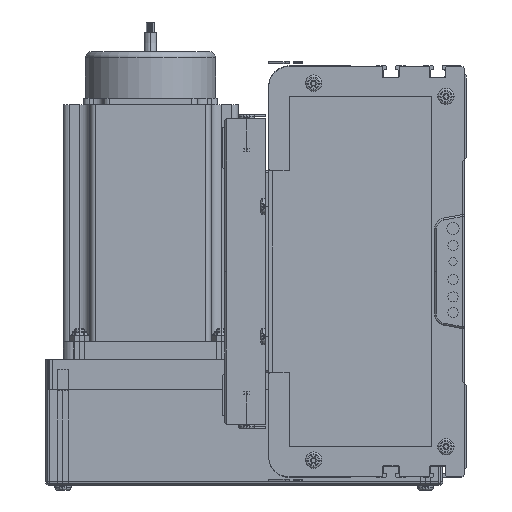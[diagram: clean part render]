
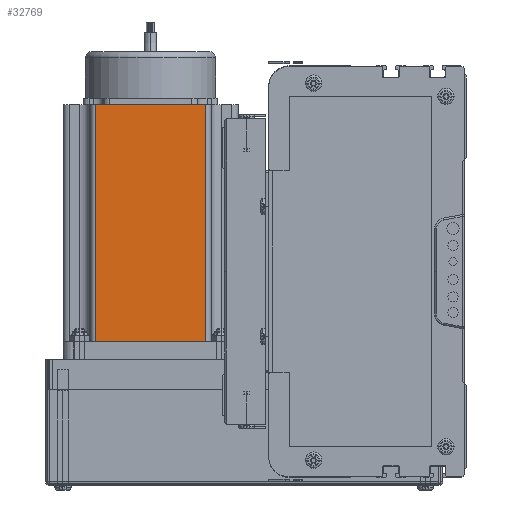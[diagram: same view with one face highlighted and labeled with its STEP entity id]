
A CAD part, left-side view. The second image highlights one B-rep face of the part: STEP entity #32769.
In plain terms, the highlighted planar face has unit normal (-1, 0, 0) as drawn and (0, -1, 0) by its records, which use the part's own axes.
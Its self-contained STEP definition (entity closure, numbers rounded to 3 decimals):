
#19446 = EDGE_CURVE ( 'NONE', #32675, #19448, #83807, .T. ) ;
#19448 = VERTEX_POINT ( 'NONE', #83808 ) ;
#19499 = VERTEX_POINT ( 'NONE', #83903 ) ;
#28596 = DIRECTION ( 'NONE',  ( 1., 0., 0. ) ) ;
#28597 = VECTOR ( 'NONE', #28596, 1000. ) ;
#28598 = CARTESIAN_POINT ( 'NONE',  ( 0., 0., 116.5 ) ) ;
#28599 = LINE ( 'NONE', #28598, #28597 ) ;
#32549 = ORIENTED_EDGE ( 'NONE', *, *, #32822, .T. ) ;
#32596 = ORIENTED_EDGE ( 'NONE', *, *, #32677, .F. ) ;
#32616 = ORIENTED_EDGE ( 'NONE', *, *, #32648, .T. ) ;
#32646 = ORIENTED_EDGE ( 'NONE', *, *, #19446, .T. ) ;
#32648 = EDGE_CURVE ( 'NONE', #19448, #19499, #39452, .T. ) ;
#32675 = VERTEX_POINT ( 'NONE', #39446 ) ;
#32677 = EDGE_CURVE ( 'NONE', #32800, #19499, #28599, .T. ) ;
#32769 = ADVANCED_FACE ( 'NONE', ( #39716 ), #39631, .F. ) ;
#32800 = VERTEX_POINT ( 'NONE', #39643 ) ;
#32822 = EDGE_CURVE ( 'NONE', #32800, #32675, #54349, .T. ) ;
#35489 = EDGE_LOOP ( 'NONE', ( #32646, #32616, #32596, #32549 ) ) ;
#39446 = CARTESIAN_POINT ( 'NONE',  ( 16.16, 0., 0. ) ) ;
#39448 = DIRECTION ( 'NONE',  ( 0., 0., 1. ) ) ;
#39449 = VECTOR ( 'NONE', #39448, 1000. ) ;
#39451 = CARTESIAN_POINT ( 'NONE',  ( 69.74, 0., 116.5 ) ) ;
#39452 = LINE ( 'NONE', #39451, #39449 ) ;
#39631 = PLANE ( 'NONE',  #39708 ) ;
#39639 = CARTESIAN_POINT ( 'NONE',  ( 0., 0., 116.5 ) ) ;
#39643 = CARTESIAN_POINT ( 'NONE',  ( 16.16, 0., 116.5 ) ) ;
#39702 = DIRECTION ( 'NONE',  ( 0., 0., 1. ) ) ;
#39703 = DIRECTION ( 'NONE',  ( 0., 1., 0. ) ) ;
#39708 = AXIS2_PLACEMENT_3D ( 'NONE', #39639, #39703, #39702 ) ;
#39716 = FACE_OUTER_BOUND ( 'NONE', #35489, .T. ) ;
#54340 = DIRECTION ( 'NONE',  ( 0., 0., -1. ) ) ;
#54341 = VECTOR ( 'NONE', #54340, 1000. ) ;
#54347 = CARTESIAN_POINT ( 'NONE',  ( 16.16, 0., 116.5 ) ) ;
#54349 = LINE ( 'NONE', #54347, #54341 ) ;
#83805 = VECTOR ( 'NONE', #83871, 1000. ) ;
#83806 = CARTESIAN_POINT ( 'NONE',  ( 0., 0., 0. ) ) ;
#83807 = LINE ( 'NONE', #83806, #83805 ) ;
#83808 = CARTESIAN_POINT ( 'NONE',  ( 69.74, 0., 0. ) ) ;
#83871 = DIRECTION ( 'NONE',  ( 1., 0., 0. ) ) ;
#83903 = CARTESIAN_POINT ( 'NONE',  ( 69.74, 0., 116.5 ) ) ;
